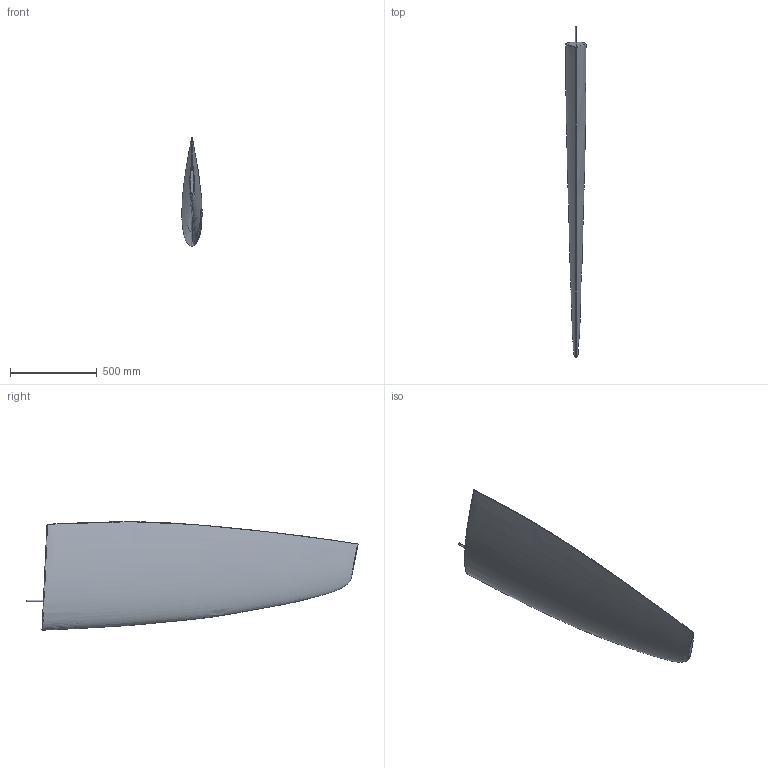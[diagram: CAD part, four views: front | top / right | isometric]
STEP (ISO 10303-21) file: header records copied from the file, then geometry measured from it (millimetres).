
FILE_DESCRIPTION (( 'STEP AP203' ), '1' );
FILE_NAME ('Rudderblade RUD40 for 36 to 44ft.STEP', '2008-09-04T11:23:47', ( 'Klaus Jeppsen' ), ( 'Jefa' ), 'SwSTEP 2.0', 'SolidWorks 2008', '' );
FILE_SCHEMA (( 'CONFIG_CONTROL_DESIGN' ));
Length unit declared in the file: millimetre
Products named in the file (1): Rudderblade RUD40 for 36 to 44ft
Bounding box: 116.33 x 1914.57 x 624.91 mm (x, y, z)
Volume: 56242583.6 mm3; surface area: 1913051.1 mm2
Topology: 1 solids, 1 shells, 13 faces, 28 edges, 17 vertices
Faces by surface type: bspline 7, plane 4, cylinder 2
Entity records: 9659 total; most frequent: CARTESIAN_POINT 9368, ORIENTED_EDGE 56, EDGE_CURVE 28, DIRECTION 22, B_SPLINE_CURVE_WITH_KNOTS 20, VERTEX_POINT 17, ADVANCED_FACE 13, EDGE_LOOP 13
